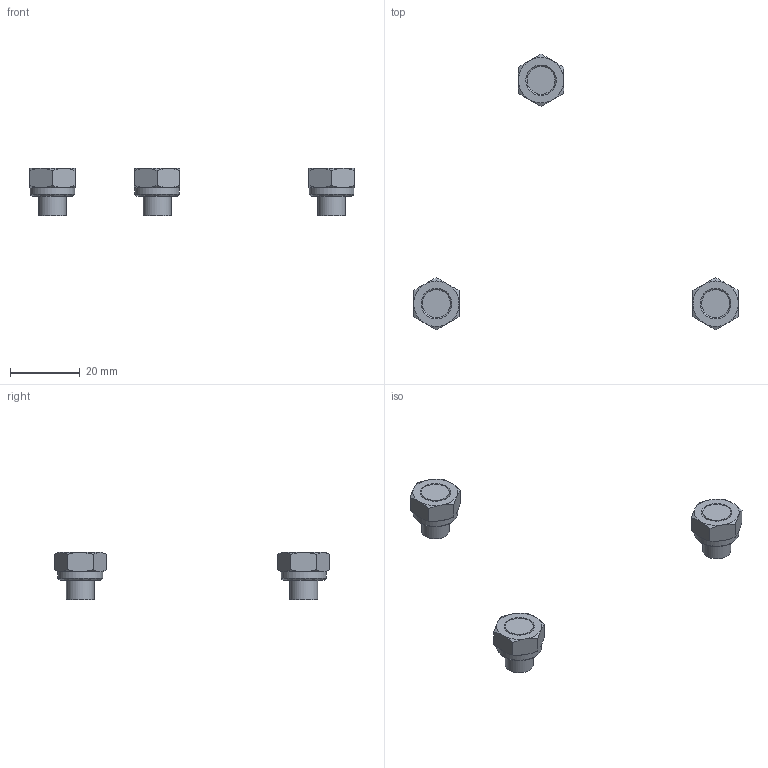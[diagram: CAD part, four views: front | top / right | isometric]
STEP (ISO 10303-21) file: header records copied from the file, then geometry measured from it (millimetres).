
FILE_DESCRIPTION (( 'STEP AP214' ), '1' );
FILE_NAME ('0303396.STEP', '2022-06-23T06:35:03', ( '' ), ( '' ), 'SwSTEP 2.0', 'SolidWorks 2020', '' );
FILE_SCHEMA (( 'AUTOMOTIVE_DESIGN' ));
Length unit declared in the file: millimetre
Products named in the file (3): 0290866_001; 0303396; 0303392_001
Assembly tree (6 placements, depth 2):
  0303396
    0303392_001  x3
    0290866_001  x3
Bounding box: 93 x 79.01 x 13.5 mm (x, y, z)
Volume: 4403.3 mm3; surface area: 3570.7 mm2
Topology: 6 solids, 6 shells, 105 faces, 204 edges, 123 vertices
Faces by surface type: plane 42, cone 42, cylinder 18, bspline 3
Full cylindrical faces by diameter (mm): 6.647 x6, 8 x3, 8.75 x6, 12.8 x3
Entity records: 1061 total; most frequent: CARTESIAN_POINT 245, DIRECTION 144, ORIENTED_EDGE 114, AXIS2_PLACEMENT_3D 69, EDGE_CURVE 57, EDGE_LOOP 50, FACE_OUTER_BOUND 42, VERTEX_POINT 39
